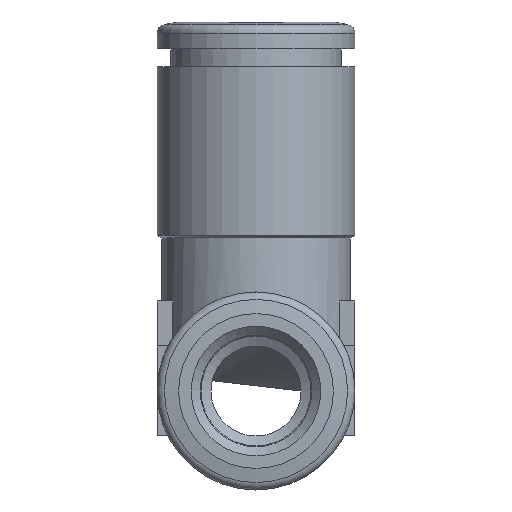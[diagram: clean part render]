
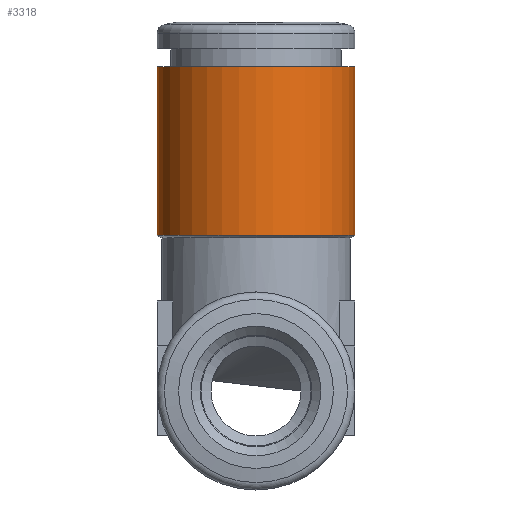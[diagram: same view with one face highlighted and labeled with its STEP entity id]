
A CAD part, left-side view. The second image highlights one B-rep face of the part: STEP entity #3318.
In plain terms, the highlighted cylindrical face has radius 5.5 mm (diameter 11 mm), a full revolution.
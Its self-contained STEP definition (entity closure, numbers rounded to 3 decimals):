
#1557=ORIENTED_EDGE('',*,*,#1947,.T.);
#1558=ORIENTED_EDGE('',*,*,#1948,.F.);
#1735=CIRCLE('',#3144,5.5);
#1736=CIRCLE('',#3146,5.5);
#1833=VERTEX_POINT('',#2890);
#1834=VERTEX_POINT('',#2893);
#1947=EDGE_CURVE('',#1833,#1833,#1735,.T.);
#1948=EDGE_CURVE('',#1834,#1834,#1736,.T.);
#2072=EDGE_LOOP('',(#1557));
#2073=EDGE_LOOP('',(#1558));
#2238=FACE_BOUND('',#2072,.T.);
#2239=FACE_BOUND('',#2073,.T.);
#2502=DIRECTION('',(0.,1.,0.));
#2503=DIRECTION('',(5.5,0.,0.));
#2504=DIRECTION('',(0.,1.,0.));
#2505=DIRECTION('',(1.,0.,0.));
#2506=DIRECTION('',(0.,1.,0.));
#2507=DIRECTION('',(5.5,0.,0.));
#2890=CARTESIAN_POINT('',(5.5,8.644,0.));
#2891=CARTESIAN_POINT('',(0.,8.644,0.));
#2892=CARTESIAN_POINT('',(0.,8.644,0.));
#2893=CARTESIAN_POINT('',(5.5,18.,0.));
#2894=CARTESIAN_POINT('',(0.,18.,0.));
#3144=AXIS2_PLACEMENT_3D('',#2891,#2502,#2503);
#3145=AXIS2_PLACEMENT_3D('',#2892,#2504,#2505);
#3146=AXIS2_PLACEMENT_3D('',#2894,#2506,#2507);
#3269=CYLINDRICAL_SURFACE('',#3145,5.5);
#3318=ADVANCED_FACE('',(#2238,#2239),#3269,.T.);
